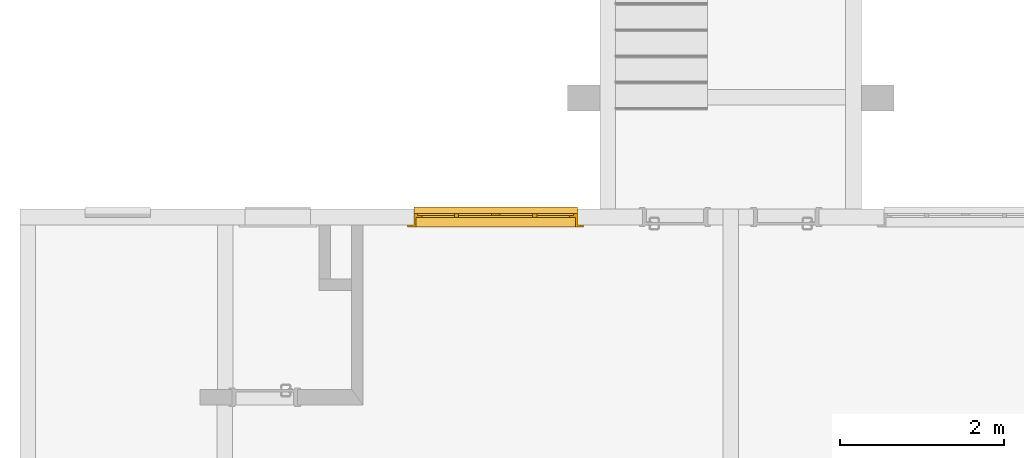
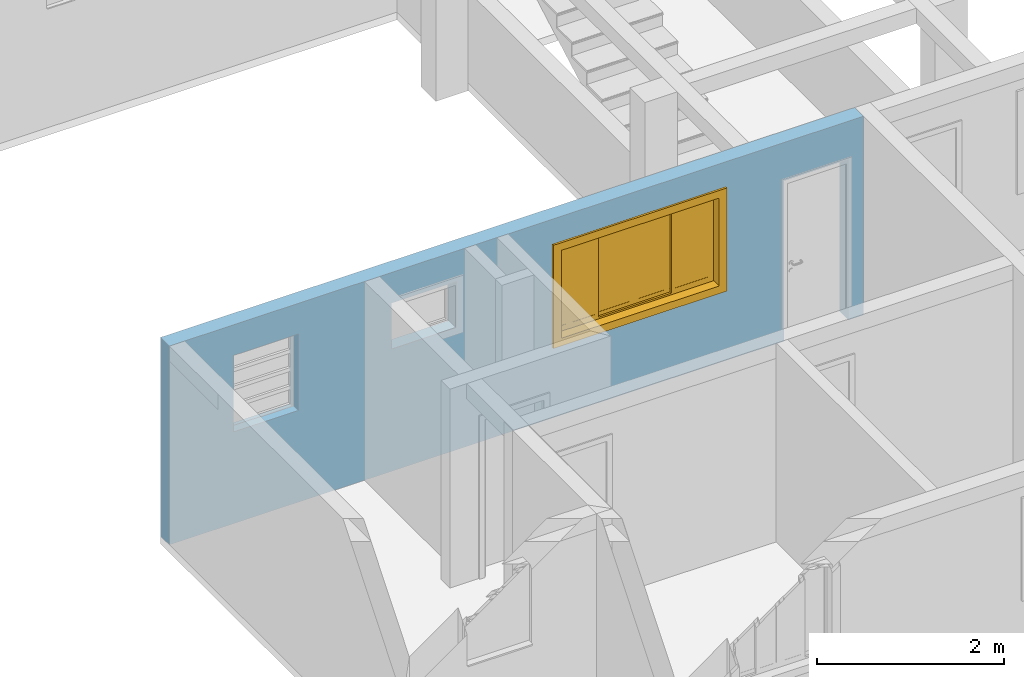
# One storey, part 11 of 43: 1 window, 4 openings, plus 1 element that does not belong to this part.
"""IFC2X3 building model written with IfcOpenShell, lengths in millimetres."""

import ifcopenshell
import ifcopenshell.guid

model = None  # the IFC model being written
_history = None  # IfcOwnerHistory: only IFC2X3 demands one
_inside = {}  # id of a spatial element -> (the spatial element, [elements in it])
_under = {}  # id of a project, library or spatial element -> (it, [spatial elements below it])
_declared = {}  # id of a project -> (the project, [libraries it declares])
_typed = {}  # id of a type object -> (the type object, [elements of that type])
_made_of = {}  # id of a material, layer set ... -> (it, [elements and type objects made of it])


def new_model(schema):
    """Start an empty IFC model of exactly this schema.

    Asked for "IFC4X3", IfcOpenShell would pick the latest addendum, in which some entities
    have other attributes; the version numbers below select the first issue.
    IFC2X3 requires an IfcOwnerHistory on every rooted entity: one is made here for all.
    """
    global model, _history
    if schema == "IFC4X3":
        model = ifcopenshell.file(schema_version=(4, 3, 0, 0))
    else:
        model = ifcopenshell.file(schema=schema)
    _inside.clear()
    _under.clear()
    _declared.clear()
    _typed.clear()
    _made_of.clear()
    _history = None
    if model.schema == "IFC2X3":
        org = make("IfcOrganization", Name="unknown")
        user = make(
            "IfcPersonAndOrganization",
            ThePerson=make("IfcPerson", FamilyName="unknown"),
            TheOrganization=org,
        )
        app = make(
            "IfcApplication",
            ApplicationDeveloper=org,
            Version="unknown",
            ApplicationFullName="unknown",
            ApplicationIdentifier="unknown",
        )
        _history = make(
            "IfcOwnerHistory",
            OwningUser=user,
            OwningApplication=app,
            ChangeAction="ADDED",
            CreationDate=0,
        )
    return model


def make(cls, **values):
    """One entity of the class cls with the attributes given. An attribute that is None is left unset."""
    return model.create_entity(
        cls, **{name: value for name, value in values.items() if value is not None}
    )


def entity(cls, *values):
    """Any entity or typed value of the class cls, its attributes in the order of the schema. None: left unset."""
    e = model.create_entity(cls)
    for i, value in enumerate(values):
        if value is not None:
            e[i] = value
    return e


def rooted(cls, **values):
    """An entity with a GlobalId (a new one), such as an element, a storey or a relation."""
    return make(cls, GlobalId=ifcopenshell.guid.new(), OwnerHistory=_history, **values)


def si_unit(unit_type, name, prefix=None):
    """IfcSIUnit, for example si_unit("LENGTHUNIT", "METRE", prefix="MILLI")."""
    return make("IfcSIUnit", UnitType=unit_type, Prefix=prefix, Name=name)


def converted_unit(unit_type, name, factor, base, dimensions=None, offset=None):
    """IfcConversionBasedUnit, such as the inch: factor (a typed value) times the base unit."""
    return make(
        "IfcConversionBasedUnit"
        if offset is None
        else "IfcConversionBasedUnitWithOffset",
        ConversionOffset=offset,
        Dimensions=None
        if dimensions is None
        else entity("IfcDimensionalExponents", *dimensions),
        UnitType=unit_type,
        Name=name,
        ConversionFactor=make(
            "IfcMeasureWithUnit", ValueComponent=factor, UnitComponent=base
        ),
    )


def derived_unit(unit_type, elements):
    """IfcDerivedUnit: a product of units, each with its exponent."""
    return make(
        "IfcDerivedUnit",
        Elements=[
            make("IfcDerivedUnitElement", Unit=unit, Exponent=power)
            for unit, power in elements
        ],
        UnitType=unit_type,
    )


def money_unit(currency):
    """IfcMonetaryUnit."""
    return make("IfcMonetaryUnit", Currency=currency)


def assignment(units):
    """IfcUnitAssignment: the units of a project."""
    return None if units is None else make("IfcUnitAssignment", Units=units)


def point(xyz):
    """IfcCartesianPoint."""
    return None if xyz is None else make("IfcCartesianPoint", Coordinates=xyz)


def direction(xyz):
    """IfcDirection."""
    return None if xyz is None else make("IfcDirection", DirectionRatios=xyz)


def frame(location, z_axis=None, x_axis=None):
    """IfcAxis2Placement3D, a coordinate frame: its origin and axes. An axis left out is left unset."""
    return make(
        "IfcAxis2Placement3D",
        Location=point(location),
        Axis=direction(z_axis),
        RefDirection=direction(x_axis),
    )


def frame_2d(location, x_axis=None):
    """IfcAxis2Placement2D, a coordinate frame in the plane: its origin and x axis."""
    return make(
        "IfcAxis2Placement2D", Location=point(location), RefDirection=direction(x_axis)
    )


def origin_with_axes():
    """The frame at (0, 0, 0) with the z axis (0, 0, 1) and the x axis (1, 0, 0) written out."""
    return frame((0.0, 0.0, 0.0), z_axis=(0.0, 0.0, 1.0), x_axis=(1.0, 0.0, 0.0))


def origin_2d_with_axis():
    """The frame at (0, 0) in the plane with the x axis (1, 0) written out."""
    return frame_2d((0.0, 0.0), x_axis=(1.0, 0.0))


def place(relative_to, where):
    """IfcLocalPlacement: puts the frame where relative to a parent placement (None: the world)."""
    return make(
        "IfcLocalPlacement", PlacementRelTo=relative_to, RelativePlacement=where
    )


def context(
    kind, dimensions, precision=None, world=None, true_north=None, identifier=None
):
    """IfcGeometricRepresentationContext, for example the 3D "Model" context."""
    return make(
        "IfcGeometricRepresentationContext",
        ContextIdentifier=identifier,
        ContextType=kind,
        CoordinateSpaceDimension=dimensions,
        Precision=precision,
        WorldCoordinateSystem=world,
        TrueNorth=true_north,
    )


def subcontext(parent, identifier, kind, view, scale=None):
    """IfcGeometricRepresentationSubContext, for example "Body" below "Model"."""
    return make(
        "IfcGeometricRepresentationSubContext",
        ContextIdentifier=identifier,
        ContextType=kind,
        ParentContext=parent,
        TargetScale=scale,
        TargetView=view,
    )


def project(units=None, contexts=None):
    """IfcProject with its units and contexts."""
    return rooted(
        "IfcProject",
        Name="project",
        RepresentationContexts=contexts,
        UnitsInContext=assignment(units),
    )


def spatial(cls, under=None, at=None, **own):
    """A site, building, storey or space (cls), placed at a placement, below another one or the project."""
    s = rooted(cls, ObjectPlacement=at, **own)
    if under is not None:
        _under.setdefault(under.id(), (under, []))[1].append(s)
    return s


def polyline(points):
    """IfcPolyline through the points."""
    return make("IfcPolyline", Points=[point(p) for p in points])


def profile(cls, at=None, kind="AREA", **sizes):
    """A parametric profile (cls). Its sizes go by their IFC names, for example OverallWidth=200.0."""
    return make(cls, ProfileType=kind, Position=at, **sizes)


def rectangle(**sizes):
    """IfcRectangleProfileDef."""
    return profile("IfcRectangleProfileDef", **sizes)


def outline(outer, holes=None, kind="AREA"):
    """IfcArbitraryClosedProfileDef: a profile drawn as a closed curve; with holes, ...WithVoids."""
    if holes is None:
        return make("IfcArbitraryClosedProfileDef", ProfileType=kind, OuterCurve=outer)
    return make(
        "IfcArbitraryProfileDefWithVoids",
        ProfileType=kind,
        OuterCurve=outer,
        InnerCurves=holes,
    )


def extrude(swept, where, along, depth):
    """IfcExtrudedAreaSolid: the profile swept, set in the frame where, extruded along a direction by depth."""
    return make(
        "IfcExtrudedAreaSolid",
        SweptArea=swept,
        Position=where,
        ExtrudedDirection=direction(along),
        Depth=depth,
    )


def faces_of(points, faces, orient=None, outer=None):
    """IfcFace entities. A face is a list of loops; a loop is a list of indices into points, from 0.

    orient and outer hold one flag for each loop. By default every Orientation is true, the
    first loop of a face is its IfcFaceOuterBound and the others are IfcFaceBound.
    """
    made = []
    for i, loops in enumerate(faces):
        bounds = []
        for j, loop in enumerate(loops):
            is_outer = j == 0 if outer is None else outer[i][j]
            bounds.append(
                make(
                    "IfcFaceOuterBound" if is_outer else "IfcFaceBound",
                    Bound=make("IfcPolyLoop", Polygon=[points[k] for k in loop]),
                    Orientation=True if orient is None else orient[i][j],
                )
            )
        made.append(make("IfcFace", Bounds=bounds))
    return made


def open_shell(faces, orient=None, outer=None):
    """The faces of one IfcOpenShell. surface_model builds it on its shared points."""
    return ("IfcOpenShell", faces, orient, outer)


def faceted_brep(points, faces, orient=None, outer=None, voids=None):
    """IfcFacetedBrep: a solid bounded by flat faces; with voids (closed shells), ...WithVoids."""
    shared = [point(p) for p in points]
    hull = make("IfcClosedShell", CfsFaces=faces_of(shared, faces, orient, outer))
    if voids is None:
        return make("IfcFacetedBrep", Outer=hull)
    return make(
        "IfcFacetedBrepWithVoids",
        Outer=hull,
        Voids=[
            make(cls, CfsFaces=faces_of(shared, fs, o, b)) for cls, fs, o, b in voids
        ],
    )


def surface_model(cls, points, shells):
    """IfcFaceBasedSurfaceModel or IfcShellBasedSurfaceModel (cls): surfaces that need not close."""
    shared = [point(p) for p in points]
    made = [make(c, CfsFaces=faces_of(shared, fs, o, b)) for c, fs, o, b in shells]
    if cls == "IfcFaceBasedSurfaceModel":
        return make(cls, FbsmFaces=made)
    return make(cls, SbsmBoundary=made)


def shape(context_of_items, identifier, shape_type, items):
    """IfcShapeRepresentation: the items that make up one representation, for example the "Body"."""
    return make(
        "IfcShapeRepresentation",
        ContextOfItems=context_of_items,
        RepresentationIdentifier=identifier,
        RepresentationType=shape_type,
        Items=items,
    )


def source(mapping_origin, context_of_items, identifier, shape_type, items):
    """IfcRepresentationMap: a shape defined once, which mapped items show again and again."""
    return make(
        "IfcRepresentationMap",
        MappingOrigin=mapping_origin,
        MappedRepresentation=shape(context_of_items, identifier, shape_type, items),
    )


def transform(
    local_origin,
    x_axis=None,
    y_axis=None,
    z_axis=None,
    scale=None,
    scale2=None,
    scale3=None,
    uniform=True,
):
    """IfcCartesianTransformationOperator3D, or its non-uniform kind. x_axis, y_axis, z_axis: its Axis1, 2, 3."""
    if uniform:
        return make(
            "IfcCartesianTransformationOperator3D",
            Axis1=direction(x_axis),
            Axis2=direction(y_axis),
            LocalOrigin=point(local_origin),
            Scale=scale,
            Axis3=direction(z_axis),
        )
    return make(
        "IfcCartesianTransformationOperator3DnonUniform",
        Axis1=direction(x_axis),
        Axis2=direction(y_axis),
        LocalOrigin=point(local_origin),
        Scale=scale,
        Axis3=direction(z_axis),
        Scale2=scale2,
        Scale3=scale3,
    )


def mapped(mapping_source, mapping_target):
    """IfcMappedItem: shows the shape of a source again, moved by a transform."""
    return make(
        "IfcMappedItem", MappingSource=mapping_source, MappingTarget=mapping_target
    )


def material(Name=None, Category=None):
    """IfcMaterial."""
    return make("IfcMaterial", Name=Name, Category=Category)


def layer(
    of_material, thickness, ventilated=None, Name=None, Category=None, Priority=None
):
    """IfcMaterialLayer: one layer of a wall or slab, of a material (None: an air gap)."""
    return make(
        "IfcMaterialLayer",
        Material=of_material,
        LayerThickness=thickness,
        IsVentilated=ventilated,
        Name=Name,
        Category=Category,
        Priority=Priority,
    )


def layer_set(layers, Name=None):
    """IfcMaterialLayerSet."""
    return make("IfcMaterialLayerSet", MaterialLayers=layers, LayerSetName=Name)


def layer_usage(for_layer_set, set_direction, sense, offset, extent=None):
    """IfcMaterialLayerSetUsage: how a layer set lies in its element."""
    return make(
        "IfcMaterialLayerSetUsage",
        ForLayerSet=for_layer_set,
        LayerSetDirection=set_direction,
        DirectionSense=sense,
        OffsetFromReferenceLine=offset,
        ReferenceExtent=extent,
    )


def made_of(thing, what):
    """Note that an element or type object is made of a material, layer set ...; save() writes the relation."""
    if what is not None:
        _made_of.setdefault(what.id(), (what, []))[1].append(thing)
    return thing


def type_object(cls, material=None, **own):
    """A type object (cls), such as IfcWallType, which elements share."""
    return made_of(rooted(cls, **own), material)


def element(
    cls,
    number,
    at=None,
    inside=None,
    cuts=None,
    type_object=None,
    material=None,
    context=None,
    identifier="Body",
    shape_type=None,
    held_by="IfcProductDefinitionShape",
    body=None,
    shapes=None,
    **own,
):
    """One element of the class cls, such as IfcWall. Its Tag is "e" and its number.

    at: its placement. inside: the storey or other place that contains it. cuts: it is an
    opening in that element (IfcRelVoidsElement). A single representation is given by context,
    identifier, shape_type and body (its items); several are given by shapes. held_by: the class
    of the entity that holds the representations. save() writes the other relations.
    """
    e = rooted(cls, Tag="e%d" % number, ObjectPlacement=at, **own)
    if body is not None:
        shapes = [shape(context, identifier, shape_type, body)]
    if shapes is not None:
        e.Representation = make(held_by, Representations=shapes)
    if inside is not None:
        _inside.setdefault(inside.id(), (inside, []))[1].append(e)
    if cuts is not None:
        rooted(
            "IfcRelVoidsElement", RelatingBuildingElement=cuts, RelatedOpeningElement=e
        )
    if type_object is not None:
        _typed.setdefault(type_object.id(), (type_object, []))[1].append(e)
    return made_of(e, material)


def fill(opening, filler):
    """IfcRelFillsElement: the door or window that sits in an opening."""
    return rooted(
        "IfcRelFillsElement",
        RelatingOpeningElement=opening,
        RelatedBuildingElement=filler,
    )


def aggregate(whole, parts):
    """IfcRelAggregates: a whole, such as a stair, and the parts it consists of."""
    return rooted("IfcRelAggregates", RelatingObject=whole, RelatedObjects=parts)


def save(model, path):
    """Write the relations noted so far, then the file.

    IfcRelAggregates (storeys below a building ...), IfcRelContainedInSpatialStructure (elements
    in a storey), IfcRelDefinesByType, IfcRelAssociatesMaterial and IfcRelDeclares: one each for
    every whole, place, type object, material and project.
    """
    for whole, parts in _under.values():
        aggregate(whole, parts)
    for where, things in _inside.values():
        rooted(
            "IfcRelContainedInSpatialStructure",
            RelatedElements=things,
            RelatingStructure=where,
        )
    for kind, things in _typed.values():
        rooted("IfcRelDefinesByType", RelatedObjects=things, RelatingType=kind)
    for what, things in _made_of.values():
        rooted("IfcRelAssociatesMaterial", RelatedObjects=things, RelatingMaterial=what)
    for by, libraries in _declared.values():
        rooted("IfcRelDeclares", RelatingContext=by, RelatedDefinitions=libraries)
    model.write(path)


model = new_model("IFC2X3")

# Units and contexts
model_context = context("Model", 3, precision=0.01, world=origin_with_axes(), true_north=direction((0.0, 1.0)))
body_context = subcontext(model_context, "Body", "Model", "MODEL_VIEW")
ifc_project = project(units=[si_unit("LENGTHUNIT", "METRE", prefix="MILLI"), si_unit("AREAUNIT", "SQUARE_METRE"), si_unit("VOLUMEUNIT", "CUBIC_METRE"), converted_unit("PLANEANGLEUNIT", "DEGREE", entity("IfcPlaneAngleMeasure", 0.0174532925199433), si_unit("PLANEANGLEUNIT", "RADIAN"), dimensions=[0, 0, 0, 0, 0, 0, 0]), money_unit("USD"), converted_unit("TIMEUNIT", "Year", entity("IfcTimeMeasure", 31557600.0), si_unit("TIMEUNIT", "SECOND"), dimensions=[0, 0, 1, 0, 0, 0, 0]), si_unit("MASSUNIT", "GRAM", prefix="KILO"), si_unit("THERMODYNAMICTEMPERATUREUNIT", "DEGREE_CELSIUS"), si_unit("LUMINOUSINTENSITYUNIT", "LUMEN"), si_unit("ENERGYUNIT", "JOULE", prefix="MEGA"), derived_unit("THERMALCONDUCTANCEUNIT", [(si_unit("POWERUNIT", "WATT"), 1), (si_unit("LENGTHUNIT", "METRE"), -1), (si_unit("THERMODYNAMICTEMPERATUREUNIT", "KELVIN"), -1)]), derived_unit("SPECIFICHEATCAPACITYUNIT", [(si_unit("ENERGYUNIT", "JOULE"), 1), (si_unit("MASSUNIT", "GRAM", prefix="KILO"), -1), (si_unit("THERMODYNAMICTEMPERATUREUNIT", "KELVIN"), -1)]), derived_unit("MASSDENSITYUNIT", [(si_unit("MASSUNIT", "GRAM", prefix="KILO"), 1), (si_unit("VOLUMEUNIT", "CUBIC_METRE"), -1)])], contexts=[model_context])

# Site, building, storey
site_placement = place(None, origin_with_axes())
site = spatial("IfcSite", under=ifc_project, at=site_placement, Name="Local", CompositionType="ELEMENT")
building_placement = place(site_placement, origin_with_axes())
building = spatial("IfcBuilding", under=site, at=building_placement, Name="Construção", CompositionType="ELEMENT")
storey_placement = place(building_placement, origin_with_axes())
storey = spatial("IfcBuildingStorey", under=building, at=storey_placement, Name="Pavimento Tipo", CompositionType="ELEMENT", Elevation=0.0)

# Wall, openings, window
ifc_material = material(Name="Concreto - Estrutural")
ifc_layer = layer(ifc_material, 190.0, ventilated="UNKNOWN")
ifc_layer_set = layer_set([ifc_layer], Name="Concreto - Estrutural 190")
ifc_layer_usage = layer_usage(ifc_layer_set, "AXIS2", "POSITIVE", 0.0)
wall_type = type_object("IfcWallType", Name="Concreto - Estrutural 190", PredefinedType="NOTDEFINED")
wall_placement = place(storey_placement, frame((55117.434598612, -1757.538479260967, 0.0), z_axis=(0.0, 0.0, 1.0), x_axis=(1.0, 0.0, 0.0)))
wall = element("IfcWallStandardCase", 1, at=wall_placement, inside=storey, type_object=wall_type, material=ifc_layer_usage, Name="Apartamento 3 - Parede-001", context=body_context, shape_type="SweptSolid", body=[
    extrude(outline(polyline([(0.0, 0.0), (8584.765133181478, 0.0), (8584.765133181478, 189.9999999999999), (0.0, 189.9999999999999), (0.0, 0.0)])), origin_with_axes(), (0.0, 0.0, 1.0), 2600.0),
])
opening_1_placement = place(wall_placement, frame((1195.000000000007, 0.0, 1200.0), z_axis=(0.0, 0.0, 1.0), x_axis=(1.0, 0.0, 0.0)))
element("IfcOpeningElement", 2, at=opening_1_placement, cuts=wall, Name="Apartamento 3 - J03", context=body_context, shape_type="SweptSolid", body=[
    extrude(rectangle(XDim=799.9999999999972, YDim=1000.0, at=origin_2d_with_axis()), frame((0.0, 140.0000000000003, 500.0), z_axis=(0.0, -1.0, 0.0), x_axis=(-1.0, 0.0, 0.0)), (0.0, 0.0, 1.0), 330.0),
    extrude(rectangle(XDim=799.9999999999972, YDim=1000.0, at=origin_2d_with_axis()), frame((0.0, 140.0000000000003, 500.0), z_axis=(0.0, 1.0, 0.0), x_axis=(-1.0, 0.0, 0.0)), (0.0, 0.0, 1.0), 240.0),
    extrude(rectangle(XDim=799.9999999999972, YDim=30.00000000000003, at=origin_2d_with_axis()), frame((0.0, 105.0000000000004, -14.9999999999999), z_axis=(0.0, 1.0, 0.0), x_axis=(-1.0, 0.0, 0.0)), (0.0, 0.0, 1.0), 225.0),
])
opening_2_placement = place(wall_placement, frame((3149.999999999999, 0.0, 1600.0), z_axis=(0.0, 0.0, 1.0), x_axis=(1.0, 0.0, 0.0)))
element("IfcOpeningElement", 3, at=opening_2_placement, cuts=wall, Name="Apartamento 3 - J02", context=body_context, shape_type="SweptSolid", body=[
    extrude(rectangle(XDim=799.9999999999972, YDim=600.0000000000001, at=origin_2d_with_axis()), frame((0.0, -189.9999999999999, 300.0000000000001), z_axis=(0.0, -1.0, 0.0), x_axis=(-1.0, 0.0, 0.0)), (0.0, 0.0, -1.0), 570.0000000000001),
    extrude(rectangle(XDim=799.9999999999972, YDim=30.00000000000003, at=origin_2d_with_axis()), frame((0.0, 155.0000000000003, -14.9999999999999), z_axis=(0.0, 1.0, 0.0), x_axis=(-1.0, 0.0, 0.0)), (0.0, 0.0, 1.0), 225.0),
    extrude(rectangle(XDim=950.0000000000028, YDim=750.0000000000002, at=origin_2d_with_axis()), frame((0.0, 0.0, 300.0000000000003), z_axis=(0.0, -1.0, 0.0), x_axis=(-1.0, 0.0, 0.0)), (0.0, 0.0, 1.0), 190.0),
])
opening_3_placement = place(wall_placement, frame((8000.000000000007, 0.0, 0.0), z_axis=(0.0, 0.0, 1.0), x_axis=(1.0, 0.0, 0.0)))
element("IfcOpeningElement", 4, at=opening_3_placement, cuts=wall, Name="Apartamento 3 - P01", context=body_context, shape_type="SweptSolid", body=[
    extrude(rectangle(XDim=799.9999999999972, YDim=2100.0, at=origin_2d_with_axis()), frame((0.0, -189.9999999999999, 1050.0), z_axis=(0.0, -1.0, 0.0), x_axis=(1.0, 0.0, 0.0)), (0.0, 0.0, -1.0), 570.0000000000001),
    extrude(rectangle(XDim=870.0000000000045, YDim=2135.0, at=origin_2d_with_axis()), frame((0.0, 0.0, 1067.5), z_axis=(0.0, -1.0, 0.0), x_axis=(1.0, 0.0, 0.0)), (0.0, 0.0, 1.0), 190.0),
    extrude(rectangle(XDim=870.0000000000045, YDim=2135.0, at=origin_2d_with_axis()), frame((0.0, 190.0000000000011, 1067.5), z_axis=(0.0, 1.0, 0.0), x_axis=(1.0, 0.0, 0.0)), (0.0, 0.0, 1.0), 190.0),
])
opening_4_placement = place(wall_placement, frame((5810.000000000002, 0.0, 1000.0), z_axis=(0.0, 0.0, 1.0), x_axis=(1.0, 0.0, 0.0)))
opening_4 = element("IfcOpeningElement", 5, at=opening_4_placement, cuts=wall, Name="Apartamento 3 - J01", context=body_context, shape_type="SweptSolid", body=[
    extrude(rectangle(XDim=2000.0, YDim=1200.0, at=origin_2d_with_axis()), frame((0.0, 140.0000000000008, 600.0000000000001), z_axis=(0.0, 1.0, 0.0), x_axis=(1.0, 0.0, 0.0)), (0.0, 0.0, -1.0), 330.0),
    extrude(rectangle(XDim=2000.0, YDim=1200.0, at=origin_2d_with_axis()), frame((0.0, 140.0000000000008, 600.0000000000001), z_axis=(0.0, -1.0, 0.0), x_axis=(1.0, 0.0, 0.0)), (0.0, 0.0, -1.0), 240.0),
    extrude(rectangle(XDim=2150.000000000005, YDim=1350.0, at=origin_2d_with_axis()), frame((0.0, 0.0, 600.0000000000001), z_axis=(0.0, 1.0, 0.0), x_axis=(1.0, 0.0, 0.0)), (0.0, 0.0, -1.0), 240.0),
])
window_style = type_object("IfcWindowStyle", Name="Janela de Correr 4-Folhas 27", ConstructionType="NOTDEFINED", OperationType="USERDEFINED", ParameterTakesPrecedence=False, Sizeable=False)
shared_shape = source(origin_with_axes(), body_context, "Body", "SurfaceModel", [
    faceted_brep([(-1000.0, 0.0, 5.0), (-1000.0, 0.0, 30.0), (-1000.0, 50.0, 27.37961103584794), (-1000.0, 50.0, 5.000000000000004), (1000.0, 0.0, 5.0), (1000.0, 0.0, 30.0), (1000.0, 50.0, 27.37961103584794), (1000.0, 80.0, 25.8073776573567), (-1000.0, 80.0, 25.8073776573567), (-1000.0, 80.0, 5.000000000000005), (1000.0, 80.0, 5.000000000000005), (1000.0, 50.0, 5.000000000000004)], [[[0, 1, 2, 3]], [[4, 5, 1, 0]], [[1, 5, 6, 7, 8, 2]], [[3, 2, 8, 9]], [[0, 3, 9, 10, 11, 4]], [[11, 6, 5, 4]], [[10, 7, 6, 11]], [[9, 8, 7, 10]]]),
    faceted_brep([(-1000.0, 0.0, 0.0), (-1000.0, 0.0, 5.0), (-1000.0, 50.0, 5.0), (-1000.0, 50.0, 0.0), (1000.0, 0.0, 0.0), (1000.0, 0.0, 5.0), (1000.0, 50.0, 5.0), (1000.0, 50.0, 0.0)], [[[0, 1, 2, 3]], [[4, 5, 1, 0]], [[1, 5, 6, 2]], [[3, 2, 6, 7]], [[0, 3, 7, 4]], [[7, 6, 5, 4]]]),
    faceted_brep([(-1000.0, -50.0, 0.0), (1000.0, -50.0, 0.0), (1000.0, -140.0, 0.0), (-1000.0, -140.0, 0.0), (-1000.0, -50.00000000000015, 1200.0), (1000.0, -50.00000000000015, 1200.0), (-975.0, -50.0, 24.99999999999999), (975.0, -50.0, 24.99999999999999), (975.0, -50.00000000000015, 1175.0), (-975.0, -50.00000000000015, 1175.0), (1000.0, -140.0000000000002, 1200.0), (-1000.0, -140.0000000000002, 1200.0), (-975.0, -140.0, 24.99999999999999), (-975.0, -140.0000000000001, 1175.0), (975.0, -140.0000000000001, 1175.0), (975.0, -140.0, 24.99999999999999)], [[[0, 1, 2, 3]], [[0, 4, 5, 1], [6, 7, 8, 9]], [[1, 5, 10, 2]], [[3, 2, 10, 11], [12, 13, 14, 15]], [[4, 0, 3, 11]], [[5, 4, 11, 10]], [[7, 6, 12, 15]], [[8, 7, 15, 14]], [[9, 8, 14, 13]], [[6, 9, 13, 12]]]),
    faceted_brep([(-1075.0, -165.0, -75.00000000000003), (-1075.0, -140.0, -75.00000000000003), (-975.0, -140.0, 24.99999999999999), (-975.0, -165.0, 24.99999999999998), (-1075.0, -165.0000000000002, 1275.0), (-1075.0, -140.0000000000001, 1275.0), (-975.0, -140.0000000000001, 1175.0), (-975.0, -165.0000000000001, 1175.0)], [[[0, 1, 2, 3]], [[4, 5, 1, 0]], [[1, 5, 6, 2]], [[3, 2, 6, 7]], [[0, 3, 7, 4]], [[7, 6, 5, 4]]]),
    faceted_brep([(1075.0, -165.0000000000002, 1275.0), (1075.0, -140.0000000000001, 1275.0), (975.0, -140.0000000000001, 1175.0), (975.0, -165.0000000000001, 1175.0), (1075.0, -165.0, -75.00000000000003), (1075.0, -140.0, -75.00000000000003), (975.0, -140.0, 24.99999999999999), (975.0, -165.0, 24.99999999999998)], [[[0, 1, 2, 3]], [[4, 5, 1, 0]], [[1, 5, 6, 2]], [[3, 2, 6, 7]], [[0, 3, 7, 4]], [[7, 6, 5, 4]]]),
    faceted_brep([(1075.0, -165.0, -75.00000000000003), (1075.0, -140.0, -75.00000000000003), (975.0, -140.0, 24.99999999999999), (975.0, -165.0, 24.99999999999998), (-1075.0, -165.0, -75.00000000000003), (-1075.0, -140.0, -75.00000000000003), (-975.0, -140.0, 24.99999999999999), (-975.0, -165.0, 24.99999999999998)], [[[0, 1, 2, 3]], [[4, 5, 1, 0]], [[1, 5, 6, 2]], [[3, 2, 6, 7]], [[0, 3, 7, 4]], [[7, 6, 5, 4]]]),
    faceted_brep([(-1075.0, -165.0000000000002, 1275.0), (-1075.0, -140.0000000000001, 1275.0), (-975.0, -140.0000000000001, 1175.0), (-975.0, -165.0000000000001, 1175.0), (1075.0, -165.0000000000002, 1275.0), (1075.0, -140.0000000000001, 1275.0), (975.0, -140.0000000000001, 1175.0), (975.0, -165.0000000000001, 1175.0)], [[[0, 1, 2, 3]], [[4, 5, 1, 0]], [[1, 5, 6, 2]], [[3, 2, 6, 7]], [[0, 3, 7, 4]], [[7, 6, 5, 4]]]),
    faceted_brep([(-953.0, -50.00000000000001, 47.0), (-953.0, 0.0, 47.00000000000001), (-953.0, 0.0, 1153.0), (-953.0, -50.00000000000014, 1153.0), (-1000.0, -50.00000000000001, 47.0), (-1000.0, 0.0, 47.00000000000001), (-1000.0, 0.0, 1153.0), (-1000.0, -50.00000000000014, 1153.0)], [[[0, 1, 2, 3]], [[4, 5, 1, 0]], [[1, 5, 6, 2]], [[3, 2, 6, 7]], [[0, 3, 7, 4]], [[7, 6, 5, 4]]]),
    faceted_brep([(1000.0, -50.00000000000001, 47.0), (1000.0, 0.0, 47.00000000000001), (1000.0, 0.0, 1153.0), (1000.0, -50.00000000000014, 1153.0), (953.0, -50.00000000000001, 47.0), (953.0, 0.0, 47.00000000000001), (953.0, 0.0, 1153.0), (953.0, -50.00000000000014, 1153.0)], [[[0, 1, 2, 3]], [[4, 5, 1, 0]], [[1, 5, 6, 2]], [[3, 2, 6, 7]], [[0, 3, 7, 4]], [[7, 6, 5, 4]]]),
    faceted_brep([(1000.0, -50.00000000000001, 47.0), (1000.0, 0.0, 47.00000000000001), (953.0, 0.0, 47.00000000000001), (953.0, -50.00000000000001, 47.0), (1000.0, -50.0, 0.0), (1000.0, 0.0, 0.0), (-1000.0, 0.0, 0.0), (-1000.0, 0.0, 47.00000000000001), (-953.0, 0.0, 47.00000000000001), (-953.0, -50.00000000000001, 47.0), (-1000.0, -50.00000000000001, 47.0), (-1000.0, -50.0, 0.0)], [[[0, 1, 2, 3]], [[4, 5, 1, 0]], [[1, 5, 6, 7, 8, 2]], [[3, 2, 8, 9]], [[0, 3, 9, 10, 11, 4]], [[11, 6, 5, 4]], [[10, 7, 6, 11]], [[9, 8, 7, 10]]]),
    faceted_brep([(1000.0, -50.00000000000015, 1200.0), (1000.0, 0.0, 1200.0), (-1000.0, 0.0, 1200.0), (-1000.0, -50.00000000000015, 1200.0), (1000.0, -50.00000000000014, 1153.0), (1000.0, 0.0, 1153.0), (953.0, 0.0, 1153.0), (476.5000000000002, 0.0, 1153.0), (0.0, 0.0, 1153.0), (-476.4999999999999, 0.0, 1153.0), (-953.0, 0.0, 1153.0), (-1000.0, 0.0, 1153.0), (-1000.0, -50.00000000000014, 1153.0), (-953.0, -50.00000000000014, 1153.0), (-476.4999999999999, -50.00000000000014, 1153.0), (0.0, -50.00000000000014, 1153.0), (476.5000000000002, -50.00000000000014, 1153.0), (953.0, -50.00000000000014, 1153.0)], [[[0, 1, 2, 3]], [[4, 5, 1, 0]], [[1, 5, 6, 7, 8, 9, 10, 11, 2]], [[3, 2, 11, 12]], [[0, 3, 12, 13, 14, 15, 16, 17, 4]], [[17, 6, 5, 4]], [[16, 7, 6, 17]], [[15, 8, 7, 16]], [[14, 9, 8, 15]], [[13, 10, 9, 14]], [[12, 11, 10, 13]]]),
    faceted_brep([(-903.0, -50.00000000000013, 1103.0), (-903.0, -25.00000000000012, 1103.0), (-953.0, -25.00000000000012, 1103.0), (-953.0, -50.00000000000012, 1103.0), (-903.0, -50.0, 97.0), (-903.0, -25.0, 97.0), (-953.0, -25.0, 97.0), (-953.0, -50.0, 97.0)], [[[0, 1, 2, 3]], [[4, 5, 1, 0]], [[1, 5, 6, 2]], [[3, 2, 6, 7]], [[0, 3, 7, 4]], [[7, 6, 5, 4]]]),
    faceted_brep([(-501.4999999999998, -50.00000000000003, 97.0), (-501.4999999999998, -25.00000000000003, 97.0), (-451.4999999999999, -25.00000000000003, 97.0), (-451.4999999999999, -50.00000000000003, 97.0), (-501.4999999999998, -50.00000000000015, 1103.0), (-501.4999999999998, -25.00000000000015, 1103.0), (-451.4999999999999, -25.00000000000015, 1103.0), (-451.4999999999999, -50.00000000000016, 1103.0)], [[[0, 1, 2, 3]], [[4, 5, 1, 0]], [[1, 5, 6, 2]], [[3, 2, 6, 7]], [[0, 3, 7, 4]], [[7, 6, 5, 4]]]),
    faceted_brep([(-451.4999999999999, -50.00000000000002, 47.0), (-451.4999999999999, -25.00000000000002, 47.0), (-451.4999999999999, -25.00000000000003, 97.0), (-451.4999999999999, -50.00000000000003, 97.0), (-953.0, -49.99999999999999, 47.0), (-953.0, -24.99999999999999, 47.0), (-953.0, -25.0, 97.0), (-903.0, -25.0, 97.0), (-501.4999999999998, -25.00000000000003, 97.0), (-501.4999999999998, -50.00000000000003, 97.0), (-903.0, -50.0, 97.0), (-953.0, -50.0, 97.0)], [[[0, 1, 2, 3]], [[4, 5, 1, 0]], [[1, 5, 6, 7, 8, 2]], [[3, 2, 8, 9]], [[0, 3, 9, 10, 11, 4]], [[11, 6, 5, 4]], [[10, 7, 6, 11]], [[9, 8, 7, 10]]]),
    faceted_brep([(-953.0, -50.00000000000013, 1153.0), (-953.0, -25.00000000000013, 1153.0), (-953.0, -25.00000000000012, 1103.0), (-953.0, -50.00000000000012, 1103.0), (-451.4999999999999, -50.00000000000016, 1153.0), (-451.4999999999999, -25.00000000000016, 1153.0), (-451.4999999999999, -25.00000000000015, 1103.0), (-501.4999999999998, -25.00000000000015, 1103.0), (-903.0, -25.00000000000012, 1103.0), (-903.0, -50.00000000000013, 1103.0), (-501.4999999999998, -50.00000000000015, 1103.0), (-451.4999999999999, -50.00000000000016, 1103.0)], [[[0, 1, 2, 3]], [[4, 5, 1, 0]], [[1, 5, 6, 7, 8, 2]], [[3, 2, 8, 9]], [[0, 3, 9, 10, 11, 4]], [[11, 6, 5, 4]], [[10, 7, 6, 11]], [[9, 8, 7, 10]]]),
    surface_model("IfcShellBasedSurfaceModel", [(-903.0, -47.50000000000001, 97.0), (-501.4999999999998, -47.50000000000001, 97.0), (-501.4999999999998, -47.50000000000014, 1103.0), (-903.0, -47.50000000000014, 1103.0)], [open_shell([[[0, 1, 2, 3]]])]),
    surface_model("IfcShellBasedSurfaceModel", [(-903.0, -27.50000000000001, 97.0), (-903.0, -27.50000000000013, 1103.0), (-501.4999999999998, -27.50000000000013, 1103.0), (-501.4999999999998, -27.50000000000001, 97.0)], [open_shell([[[0, 1, 2, 3]]])]),
    faceted_brep([(-451.4999999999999, -25.00000000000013, 1103.0), (-451.4999999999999, 0.0, 1103.0), (-501.4999999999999, 0.0, 1103.0), (-501.4999999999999, -25.00000000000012, 1103.0), (-451.4999999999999, -25.0, 97.0), (-451.4999999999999, 0.0, 97.0), (-501.4999999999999, 0.0, 97.0), (-501.4999999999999, -25.0, 97.0)], [[[0, 1, 2, 3]], [[4, 5, 1, 0]], [[1, 5, 6, 2]], [[3, 2, 6, 7]], [[0, 3, 7, 4]], [[7, 6, 5, 4]]]),
    faceted_brep([(-49.99999999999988, -25.00000000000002, 97.0), (-49.99999999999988, 0.0, 97.0), (0.0, 0.0, 97.0), (0.0, -25.00000000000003, 97.0), (-49.99999999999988, -25.00000000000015, 1103.0), (-49.99999999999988, 0.0, 1103.0), (0.0, 0.0, 1103.0), (0.0, -25.00000000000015, 1103.0)], [[[0, 1, 2, 3]], [[4, 5, 1, 0]], [[1, 5, 6, 2]], [[3, 2, 6, 7]], [[0, 3, 7, 4]], [[7, 6, 5, 4]]]),
    faceted_brep([(0.0, -25.00000000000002, 47.0), (0.0, 0.0, 47.0), (0.0, 0.0, 97.0), (0.0, -25.00000000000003, 97.0), (-501.4999999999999, -24.99999999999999, 47.0), (-501.4999999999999, 0.0, 47.0), (-501.4999999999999, 0.0, 97.0), (-451.4999999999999, 0.0, 97.0), (-49.99999999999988, 0.0, 97.0), (-49.99999999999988, -25.00000000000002, 97.0), (-451.4999999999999, -25.0, 97.0), (-501.4999999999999, -25.0, 97.0)], [[[0, 1, 2, 3]], [[4, 5, 1, 0]], [[1, 5, 6, 7, 8, 2]], [[3, 2, 8, 9]], [[0, 3, 9, 10, 11, 4]], [[11, 6, 5, 4]], [[10, 7, 6, 11]], [[9, 8, 7, 10]]]),
    faceted_brep([(-501.4999999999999, -25.00000000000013, 1153.0), (-501.4999999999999, 0.0, 1153.0), (-501.4999999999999, 0.0, 1103.0), (-501.4999999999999, -25.00000000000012, 1103.0), (0.0, -25.00000000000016, 1153.0), (0.0, 0.0, 1153.0), (0.0, 0.0, 1103.0), (-49.99999999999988, 0.0, 1103.0), (-451.4999999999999, 0.0, 1103.0), (-451.4999999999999, -25.00000000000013, 1103.0), (-49.99999999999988, -25.00000000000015, 1103.0), (0.0, -25.00000000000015, 1103.0)], [[[0, 1, 2, 3]], [[4, 5, 1, 0]], [[1, 5, 6, 7, 8, 2]], [[3, 2, 8, 9]], [[0, 3, 9, 10, 11, 4]], [[11, 6, 5, 4]], [[10, 7, 6, 11]], [[9, 8, 7, 10]]]),
    surface_model("IfcShellBasedSurfaceModel", [(-451.4999999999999, -22.50000000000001, 97.0), (-49.99999999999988, -22.50000000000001, 97.0), (-49.99999999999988, -22.50000000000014, 1103.0), (-451.4999999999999, -22.50000000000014, 1103.0)], [open_shell([[[0, 1, 2, 3]]])]),
    surface_model("IfcShellBasedSurfaceModel", [(-451.4999999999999, -2.500000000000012, 97.0), (-451.4999999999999, -2.500000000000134, 1103.0), (-49.99999999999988, -2.500000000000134, 1103.0), (-49.99999999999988, -2.500000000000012, 97.0)], [open_shell([[[0, 1, 2, 3]]])]),
    faceted_brep([(50.0000000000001, -25.00000000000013, 1103.0), (50.0000000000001, 0.0, 1103.0), (0.0, 0.0, 1103.0), (0.0, -25.00000000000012, 1103.0), (50.0000000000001, -25.0, 97.0), (50.0000000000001, 0.0, 97.0), (0.0, 0.0, 97.0), (0.0, -25.0, 97.0)], [[[0, 1, 2, 3]], [[4, 5, 1, 0]], [[1, 5, 6, 2]], [[3, 2, 6, 7]], [[0, 3, 7, 4]], [[7, 6, 5, 4]]]),
    faceted_brep([(451.5000000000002, -25.00000000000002, 97.0), (451.5000000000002, 0.0, 97.0), (501.5000000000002, 0.0, 97.0), (501.5000000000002, -25.00000000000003, 97.0), (451.5000000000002, -25.00000000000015, 1103.0), (451.5000000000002, 0.0, 1103.0), (501.5000000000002, 0.0, 1103.0), (501.5000000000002, -25.00000000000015, 1103.0)], [[[0, 1, 2, 3]], [[4, 5, 1, 0]], [[1, 5, 6, 2]], [[3, 2, 6, 7]], [[0, 3, 7, 4]], [[7, 6, 5, 4]]]),
    faceted_brep([(501.5000000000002, -25.00000000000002, 47.0), (501.5000000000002, 0.0, 47.0), (501.5000000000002, 0.0, 97.0), (501.5000000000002, -25.00000000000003, 97.0), (0.0, -24.99999999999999, 47.0), (0.0, 0.0, 47.0), (0.0, 0.0, 97.0), (50.0000000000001, 0.0, 97.0), (451.5000000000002, 0.0, 97.0), (451.5000000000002, -25.00000000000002, 97.0), (50.0000000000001, -25.0, 97.0), (0.0, -25.0, 97.0)], [[[0, 1, 2, 3]], [[4, 5, 1, 0]], [[1, 5, 6, 7, 8, 2]], [[3, 2, 8, 9]], [[0, 3, 9, 10, 11, 4]], [[11, 6, 5, 4]], [[10, 7, 6, 11]], [[9, 8, 7, 10]]]),
    faceted_brep([(0.0, -25.00000000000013, 1153.0), (0.0, 0.0, 1153.0), (0.0, 0.0, 1103.0), (0.0, -25.00000000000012, 1103.0), (501.5000000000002, -25.00000000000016, 1153.0), (501.5000000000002, 0.0, 1153.0), (501.5000000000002, 0.0, 1103.0), (451.5000000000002, 0.0, 1103.0), (50.0000000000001, 0.0, 1103.0), (50.0000000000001, -25.00000000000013, 1103.0), (451.5000000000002, -25.00000000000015, 1103.0), (501.5000000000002, -25.00000000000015, 1103.0)], [[[0, 1, 2, 3]], [[4, 5, 1, 0]], [[1, 5, 6, 7, 8, 2]], [[3, 2, 8, 9]], [[0, 3, 9, 10, 11, 4]], [[11, 6, 5, 4]], [[10, 7, 6, 11]], [[9, 8, 7, 10]]]),
    surface_model("IfcShellBasedSurfaceModel", [(50.0000000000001, -22.50000000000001, 97.0), (451.5000000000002, -22.50000000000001, 97.0), (451.5000000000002, -22.50000000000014, 1103.0), (50.0000000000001, -22.50000000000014, 1103.0)], [open_shell([[[0, 1, 2, 3]]])]),
    surface_model("IfcShellBasedSurfaceModel", [(50.0000000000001, -2.500000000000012, 97.0), (50.0000000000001, -2.500000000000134, 1103.0), (451.5000000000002, -2.500000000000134, 1103.0), (451.5000000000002, -2.500000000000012, 97.0)], [open_shell([[[0, 1, 2, 3]]])]),
    faceted_brep([(501.5000000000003, -50.00000000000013, 1103.0), (501.5000000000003, -25.00000000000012, 1103.0), (451.5000000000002, -25.00000000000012, 1103.0), (451.5000000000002, -50.00000000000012, 1103.0), (501.5000000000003, -50.0, 97.0), (501.5000000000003, -25.0, 97.0), (451.5000000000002, -25.0, 97.0), (451.5000000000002, -50.0, 97.0)], [[[0, 1, 2, 3]], [[4, 5, 1, 0]], [[1, 5, 6, 2]], [[3, 2, 6, 7]], [[0, 3, 7, 4]], [[7, 6, 5, 4]]]),
    faceted_brep([(903.0000000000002, -50.00000000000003, 97.0), (903.0000000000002, -25.00000000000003, 97.0), (953.0000000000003, -25.00000000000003, 97.0), (953.0000000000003, -50.00000000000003, 97.0), (903.0000000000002, -50.00000000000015, 1103.0), (903.0000000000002, -25.00000000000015, 1103.0), (953.0000000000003, -25.00000000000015, 1103.0), (953.0000000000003, -50.00000000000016, 1103.0)], [[[0, 1, 2, 3]], [[4, 5, 1, 0]], [[1, 5, 6, 2]], [[3, 2, 6, 7]], [[0, 3, 7, 4]], [[7, 6, 5, 4]]]),
    faceted_brep([(953.0000000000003, -50.00000000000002, 47.0), (953.0000000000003, -25.00000000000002, 47.0), (953.0000000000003, -25.00000000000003, 97.0), (953.0000000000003, -50.00000000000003, 97.0), (451.5000000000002, -49.99999999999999, 47.0), (451.5000000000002, -24.99999999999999, 47.0), (451.5000000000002, -25.0, 97.0), (501.5000000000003, -25.0, 97.0), (903.0000000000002, -25.00000000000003, 97.0), (903.0000000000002, -50.00000000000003, 97.0), (501.5000000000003, -50.0, 97.0), (451.5000000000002, -50.0, 97.0)], [[[0, 1, 2, 3]], [[4, 5, 1, 0]], [[1, 5, 6, 7, 8, 2]], [[3, 2, 8, 9]], [[0, 3, 9, 10, 11, 4]], [[11, 6, 5, 4]], [[10, 7, 6, 11]], [[9, 8, 7, 10]]]),
    faceted_brep([(451.5000000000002, -50.00000000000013, 1153.0), (451.5000000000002, -25.00000000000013, 1153.0), (451.5000000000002, -25.00000000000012, 1103.0), (451.5000000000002, -50.00000000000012, 1103.0), (953.0000000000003, -50.00000000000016, 1153.0), (953.0000000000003, -25.00000000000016, 1153.0), (953.0000000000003, -25.00000000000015, 1103.0), (903.0000000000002, -25.00000000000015, 1103.0), (501.5000000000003, -25.00000000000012, 1103.0), (501.5000000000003, -50.00000000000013, 1103.0), (903.0000000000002, -50.00000000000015, 1103.0), (953.0000000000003, -50.00000000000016, 1103.0)], [[[0, 1, 2, 3]], [[4, 5, 1, 0]], [[1, 5, 6, 7, 8, 2]], [[3, 2, 8, 9]], [[0, 3, 9, 10, 11, 4]], [[11, 6, 5, 4]], [[10, 7, 6, 11]], [[9, 8, 7, 10]]]),
    surface_model("IfcShellBasedSurfaceModel", [(501.5000000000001, -47.50000000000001, 97.0), (903.0000000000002, -47.50000000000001, 97.0), (903.0000000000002, -47.50000000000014, 1103.0), (501.5000000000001, -47.50000000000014, 1103.0)], [open_shell([[[0, 1, 2, 3]]])]),
    surface_model("IfcShellBasedSurfaceModel", [(501.5000000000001, -27.50000000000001, 97.0), (501.5000000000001, -27.50000000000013, 1103.0), (903.0000000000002, -27.50000000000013, 1103.0), (903.0000000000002, -27.50000000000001, 97.0)], [open_shell([[[0, 1, 2, 3]]])]),
])
window_placement = place(opening_4_placement, frame((-1000.0, 0.0, 0.0), z_axis=(0.0, 0.0, 1.0), x_axis=(1.0, 0.0, 0.0)))
window = element("IfcWindow", 6, at=window_placement, inside=storey, type_object=window_style, Name="Apartamento 3 - J01", ObjectType="WINDOW", OverallHeight=1200.0, OverallWidth=2000.0, context=body_context, shape_type="MappedRepresentation", body=[
    mapped(shared_shape, transform((1000.0, 140.0000000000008, 0.0))),
])
fill(opening_4, window)

save(model, "model.ifc")
